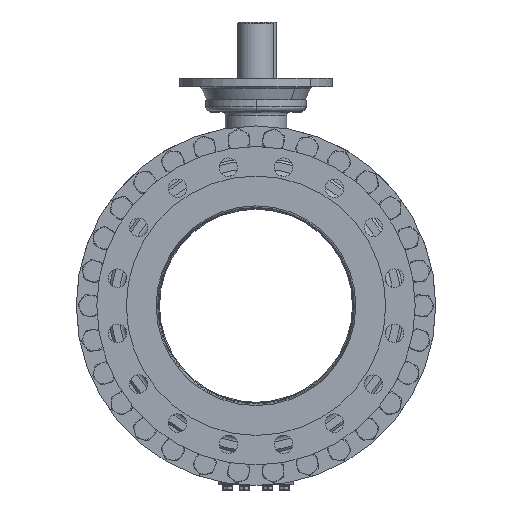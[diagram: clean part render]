
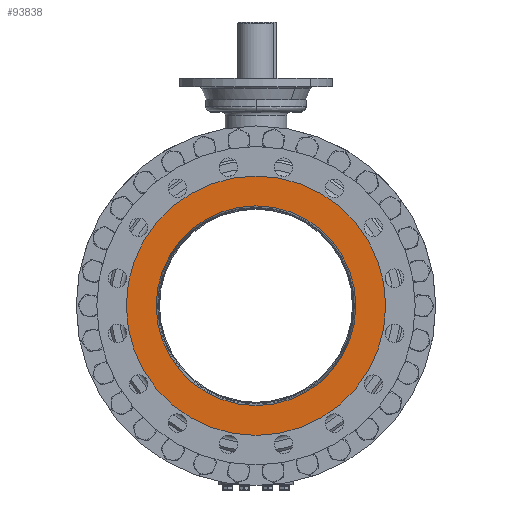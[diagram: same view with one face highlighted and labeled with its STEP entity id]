
A CAD part, left-side view. The second image highlights one B-rep face of the part: STEP entity #93838.
In plain terms, the highlighted planar face has unit normal (-1, 0, 0).
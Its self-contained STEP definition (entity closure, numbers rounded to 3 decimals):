
#16270=CARTESIAN_POINT('',(-381.,0.,0.));
#16271=DIRECTION('',(1.,0.,0.));
#16272=DIRECTION('',(0.,0.,1.));
#16273=AXIS2_PLACEMENT_3D('',#16270,#16271,#16272);
#16275=CARTESIAN_POINT('',(-381.,0.,0.));
#16276=DIRECTION('',(1.,0.,0.));
#16277=DIRECTION('',(0.,0.,-1.));
#16278=AXIS2_PLACEMENT_3D('',#16275,#16276,#16277);
#16280=CARTESIAN_POINT('',(-381.,0.,0.));
#16281=DIRECTION('',(1.,0.,0.));
#16282=DIRECTION('',(0.,0.,1.));
#16283=AXIS2_PLACEMENT_3D('',#16280,#16281,#16282);
#16285=CARTESIAN_POINT('',(-381.,0.,0.));
#16286=DIRECTION('',(-1.,0.,0.));
#16287=DIRECTION('',(0.,0.,1.));
#16288=AXIS2_PLACEMENT_3D('',#16285,#16286,#16287);
#63965=CARTESIAN_POINT('',(-381.,0.,194.4));
#63967=VERTEX_POINT('',#63965);
#63969=CARTESIAN_POINT('',(-381.,0.,-194.4));
#63971=VERTEX_POINT('',#63969);
#64000=CARTESIAN_POINT('',(-381.,0.,252.5));
#64001=CARTESIAN_POINT('',(-381.,0.,-252.5));
#64002=VERTEX_POINT('',#64000);
#64003=VERTEX_POINT('',#64001);
#93823=CARTESIAN_POINT('',(-381.,0.,0.));
#93824=DIRECTION('',(-1.,0.,0.));
#93825=DIRECTION('',(0.,0.,-1.));
#93826=AXIS2_PLACEMENT_3D('',#93823,#93824,#93825);
#93827=PLANE('',#93826);
#93829=ORIENTED_EDGE('',*,*,#93828,.T.);
#93831=ORIENTED_EDGE('',*,*,#93830,.T.);
#93832=EDGE_LOOP('',(#93829,#93831));
#93833=FACE_OUTER_BOUND('',#93832,.F.);
#93834=ORIENTED_EDGE('',*,*,#93802,.F.);
#93835=ORIENTED_EDGE('',*,*,#93818,.T.);
#93836=EDGE_LOOP('',(#93834,#93835));
#93837=FACE_BOUND('',#93836,.F.);
#93838=ADVANCED_FACE('',(#93833,#93837),#93827,.T.);
#16274=CIRCLE('',#16273,252.5);
#16279=CIRCLE('',#16278,252.5);
#16284=CIRCLE('',#16283,194.4);
#16289=CIRCLE('',#16288,194.4);
#93802=EDGE_CURVE('',#63967,#63971,#16284,.T.);
#93818=EDGE_CURVE('',#63967,#63971,#16289,.T.);
#93828=EDGE_CURVE('',#64002,#64003,#16274,.T.);
#93830=EDGE_CURVE('',#64003,#64002,#16279,.T.);
